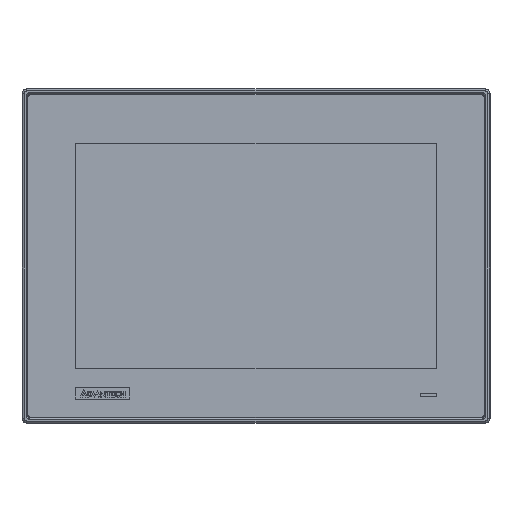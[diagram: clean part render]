
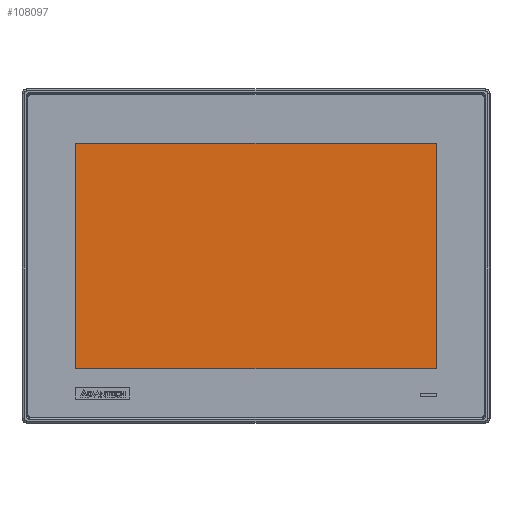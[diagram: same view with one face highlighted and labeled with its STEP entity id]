
A CAD part, top view. The second image highlights one B-rep face of the part: STEP entity #108097.
In plain terms, the highlighted planar face has unit normal (0, 0, 1).
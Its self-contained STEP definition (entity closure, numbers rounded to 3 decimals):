
#4127 = ORIENTED_EDGE ( 'NONE', *, *, #138879, .T. ) ;
#6352 = ORIENTED_EDGE ( 'NONE', *, *, #50758, .T. ) ;
#7779 = VERTEX_POINT ( 'NONE', #51291 ) ;
#12305 = VERTEX_POINT ( 'NONE', #117886 ) ;
#15908 = LINE ( 'NONE', #75209, #148287 ) ;
#17470 = CARTESIAN_POINT ( 'NONE',  ( 108.98, 95.9, 7.4 ) ) ;
#30271 = VECTOR ( 'NONE', #129592, 1000. ) ;
#36333 = DIRECTION ( 'NONE',  ( 1., 0., 0. ) ) ;
#40702 = DIRECTION ( 'NONE',  ( 0., 0., -1. ) ) ;
#50758 = EDGE_CURVE ( 'NONE', #120863, #7779, #94204, .T. ) ;
#51291 = CARTESIAN_POINT ( 'NONE',  ( 108.98, 68.3, 7.4 ) ) ;
#51443 = PLANE ( 'NONE',  #90000 ) ;
#55068 = ORIENTED_EDGE ( 'NONE', *, *, #106499, .T. ) ;
#75209 = CARTESIAN_POINT ( 'NONE',  ( 136.3, 68.3, 7.4 ) ) ;
#76181 = DIRECTION ( 'NONE',  ( -1., 0., 0. ) ) ;
#87122 = EDGE_LOOP ( 'NONE', ( #55068, #175488, #4127, #6352 ) ) ;
#90000 = AXIS2_PLACEMENT_3D ( 'NONE', #161327, #40702, #112629 ) ;
#94204 = LINE ( 'NONE', #17470, #130735 ) ;
#99504 = VERTEX_POINT ( 'NONE', #129202 ) ;
#106499 = EDGE_CURVE ( 'NONE', #7779, #99504, #15908, .T. ) ;
#108097 = ADVANCED_FACE ( 'NONE', ( #138029 ), #51443, .F. ) ;
#108113 = VECTOR ( 'NONE', #36333, 1000. ) ;
#112629 = DIRECTION ( 'NONE',  ( 0., -1., 0. ) ) ;
#117886 = CARTESIAN_POINT ( 'NONE',  ( -108.98, -68.3, 7.4 ) ) ;
#120863 = VERTEX_POINT ( 'NONE', #187211 ) ;
#128646 = CARTESIAN_POINT ( 'NONE',  ( -108.98, 95.9, 7.4 ) ) ;
#129202 = CARTESIAN_POINT ( 'NONE',  ( -108.98, 68.3, 7.4 ) ) ;
#129592 = DIRECTION ( 'NONE',  ( 0., -1., 0. ) ) ;
#130735 = VECTOR ( 'NONE', #180981, 1000. ) ;
#138029 = FACE_OUTER_BOUND ( 'NONE', #87122, .T. ) ;
#138879 = EDGE_CURVE ( 'NONE', #12305, #120863, #173221, .T. ) ;
#143947 = CARTESIAN_POINT ( 'NONE',  ( 136.3, -68.3, 7.4 ) ) ;
#148287 = VECTOR ( 'NONE', #76181, 1000. ) ;
#161327 = CARTESIAN_POINT ( 'NONE',  ( 136.3, 95.9, 7.4 ) ) ;
#168368 = EDGE_CURVE ( 'NONE', #99504, #12305, #173488, .T. ) ;
#173221 = LINE ( 'NONE', #143947, #108113 ) ;
#173488 = LINE ( 'NONE', #128646, #30271 ) ;
#175488 = ORIENTED_EDGE ( 'NONE', *, *, #168368, .T. ) ;
#180981 = DIRECTION ( 'NONE',  ( 0., 1., 0. ) ) ;
#187211 = CARTESIAN_POINT ( 'NONE',  ( 108.98, -68.3, 7.4 ) ) ;
